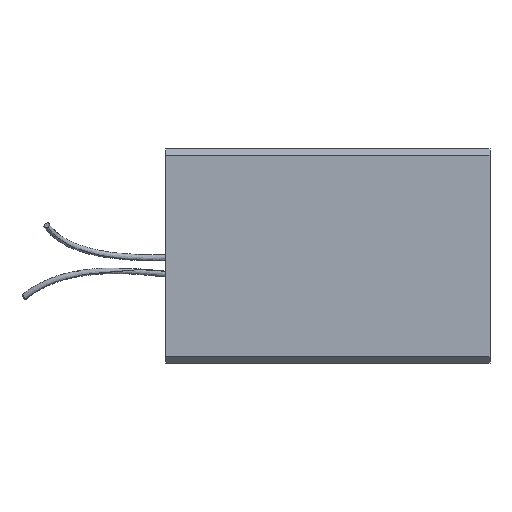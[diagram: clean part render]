
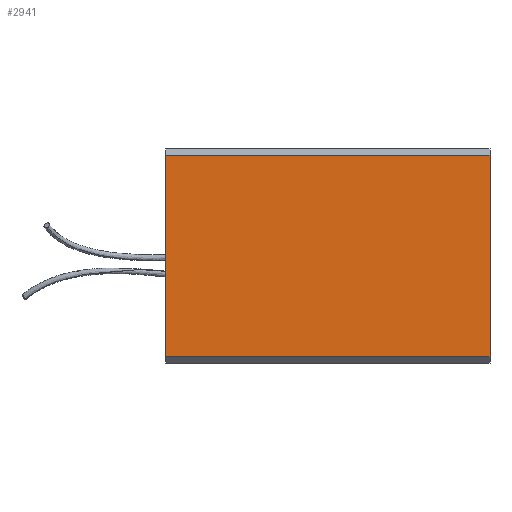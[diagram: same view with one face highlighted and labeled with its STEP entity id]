
A CAD part, front view. The second image highlights one B-rep face of the part: STEP entity #2941.
In plain terms, the highlighted planar face has unit normal (0, -1, 0).
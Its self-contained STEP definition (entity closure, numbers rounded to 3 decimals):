
#46 = CARTESIAN_POINT ( 'NONE',  ( 53., -17.5, 17.5 ) ) ;
#101 = VECTOR ( 'NONE', #1389, 1000. ) ;
#133 = VERTEX_POINT ( 'NONE', #3000 ) ;
#175 = ORIENTED_EDGE ( 'NONE', *, *, #3117, .T. ) ;
#302 = DIRECTION ( 'NONE',  ( 0., 0., 1. ) ) ;
#357 = VECTOR ( 'NONE', #2448, 1000. ) ;
#499 = LINE ( 'NONE', #625, #2440 ) ;
#546 = EDGE_CURVE ( 'NONE', #1511, #133, #1012, .T. ) ;
#614 = DIRECTION ( 'NONE',  ( 0., 0., -1. ) ) ;
#625 = CARTESIAN_POINT ( 'NONE',  ( 53., -17.5, 17.5 ) ) ;
#1012 = LINE ( 'NONE', #1180, #357 ) ;
#1016 = PLANE ( 'NONE',  #1237 ) ;
#1026 = VECTOR ( 'NONE', #3301, 1000. ) ;
#1034 = FACE_OUTER_BOUND ( 'NONE', #2263, .T. ) ;
#1133 = CARTESIAN_POINT ( 'NONE',  ( 53., -17.5, 16.5 ) ) ;
#1180 = CARTESIAN_POINT ( 'NONE',  ( 53., -17.5, -16.5 ) ) ;
#1237 = AXIS2_PLACEMENT_3D ( 'NONE', #46, #1795, #302 ) ;
#1341 = VERTEX_POINT ( 'NONE', #2618 ) ;
#1389 = DIRECTION ( 'NONE',  ( -1., 0., 0. ) ) ;
#1511 = VERTEX_POINT ( 'NONE', #2152 ) ;
#1648 = ORIENTED_EDGE ( 'NONE', *, *, #2532, .T. ) ;
#1779 = LINE ( 'NONE', #3019, #1026 ) ;
#1795 = DIRECTION ( 'NONE',  ( 0., 1., 0. ) ) ;
#1970 = ORIENTED_EDGE ( 'NONE', *, *, #546, .T. ) ;
#2024 = LINE ( 'NONE', #1133, #101 ) ;
#2090 = EDGE_CURVE ( 'NONE', #2889, #133, #499, .T. ) ;
#2152 = CARTESIAN_POINT ( 'NONE',  ( 0., -17.5, -16.5 ) ) ;
#2263 = EDGE_LOOP ( 'NONE', ( #1648, #1970, #2816, #175 ) ) ;
#2440 = VECTOR ( 'NONE', #614, 1000. ) ;
#2448 = DIRECTION ( 'NONE',  ( 1., 0., 0. ) ) ;
#2532 = EDGE_CURVE ( 'NONE', #1341, #1511, #1779, .T. ) ;
#2618 = CARTESIAN_POINT ( 'NONE',  ( 0., -17.5, 16.5 ) ) ;
#2735 = CARTESIAN_POINT ( 'NONE',  ( 53., -17.5, 16.5 ) ) ;
#2816 = ORIENTED_EDGE ( 'NONE', *, *, #2090, .F. ) ;
#2889 = VERTEX_POINT ( 'NONE', #2735 ) ;
#2941 = ADVANCED_FACE ( 'NONE', ( #1034 ), #1016, .F. ) ;
#3000 = CARTESIAN_POINT ( 'NONE',  ( 53., -17.5, -16.5 ) ) ;
#3019 = CARTESIAN_POINT ( 'NONE',  ( 0., -17.5, 17.5 ) ) ;
#3117 = EDGE_CURVE ( 'NONE', #2889, #1341, #2024, .T. ) ;
#3301 = DIRECTION ( 'NONE',  ( 0., 0., -1. ) ) ;
